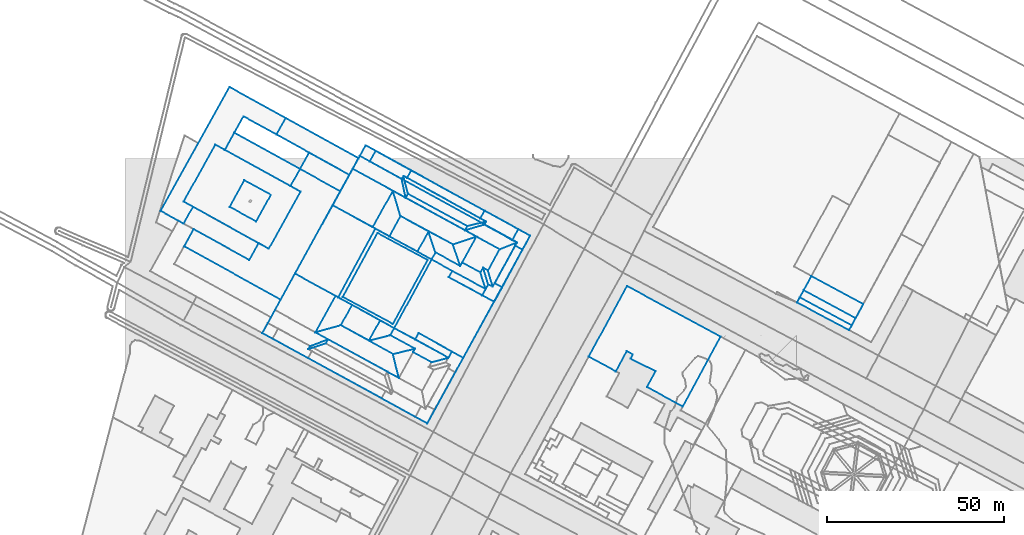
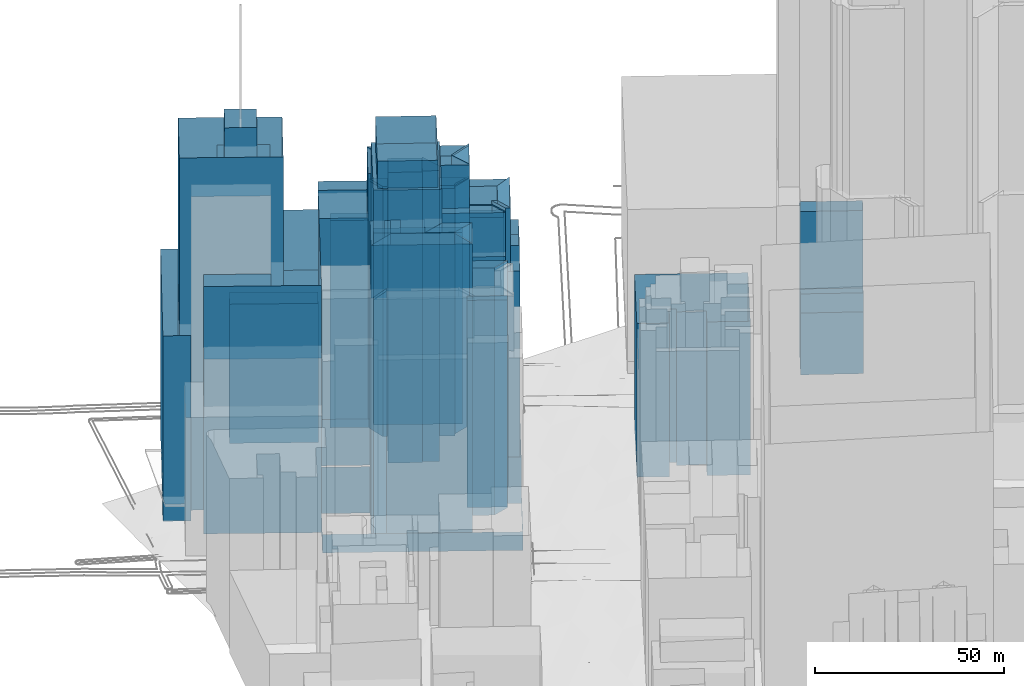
# Not in any storey, part 28 of 76: 48 walls.
"""IFC2X3 model written with IfcOpenShell, lengths in metres."""

from ifc_helpers import new_model, si_unit, frame, origin_with_axes, place, context, subcontext, project, faceted_brep, element, save


model = new_model("IFC2X3")

# Units and contexts
model_context = context("Model", 3, precision=1e-05, world=origin_with_axes())
body_context = subcontext(model_context, "Body", "Model", "MODEL_VIEW")
ifc_project = project(units=[si_unit("AREAUNIT", "SQUARE_METRE"), si_unit("LENGTHUNIT", "METRE")], contexts=[model_context])

# Walls
wall_1_placement = place(None, frame((75.1201709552, 329.5761447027, 23.8507407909), z_axis=(0.0, 0.0, 1.0), x_axis=(1.0, 0.0, 0.0)))
element("IfcWall", 1, at=wall_1_placement, Name="Mur 0", context=body_context, shape_type="Brep", body=[
    faceted_brep([(7.0088017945, -3.8488115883, 80.0), (0.0, 0.0, 80.0), (7.0088017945, -3.8488115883, 0.0), (0.0, 0.0, 0.0), (6.4714030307, -4.8209481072, 80.0), (6.4714030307, -4.8209481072, 0.0), (11.6537066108, -7.6695578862, 80.0), (11.6537066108, -7.6695578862, 0.0), (16.4083748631, -6.4041945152, 80.0), (16.4083748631, -6.4041945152, 0.0), (1.0997322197, 1.9778684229, 80.0), (1.0997322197, 1.9778684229, 0.0)], [[[0, 1, 2]], [[2, 1, 3]], [[4, 0, 5]], [[5, 0, 2]], [[6, 4, 7]], [[7, 4, 5]], [[8, 6, 9]], [[9, 6, 7]], [[1, 10, 3]], [[3, 10, 11]], [[10, 8, 11]], [[11, 8, 9]]]),
])
wall_2_placement = place(None, frame((53.8808145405, 330.3842681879, 23.5017044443), z_axis=(0.0, 0.0, 1.0), x_axis=(1.0, 0.0, 0.0)))
element("IfcWall", 2, at=wall_2_placement, Name="Mur 0", context=body_context, shape_type="Brep", body=[
    faceted_brep([(20.3973031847, -11.1652006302, 94.0), (0.0, 0.0, 94.0), (20.3973031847, -11.1652006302, 0.0), (0.0, 0.0, 0.0), (23.6510455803, -12.9481890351, 94.0), (23.6510455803, -12.9481890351, 0.0), (21.976830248, -6.1619484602, 94.0), (21.976830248, -6.1619484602, 0.0), (7.2275813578, 2.0268001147, 94.0), (7.2275813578, 2.0268001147, 0.0)], [[[0, 1, 2]], [[2, 1, 3]], [[4, 0, 5]], [[5, 0, 2]], [[6, 4, 7]], [[7, 4, 5]], [[1, 8, 3]], [[3, 8, 9]], [[8, 6, 9]], [[9, 6, 7]]]),
])
wall_3_placement = place(None, frame((192.0622109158, 342.2925513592, 22.833956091), z_axis=(0.0, 0.0, 1.0), x_axis=(1.0, 0.0, 0.0)))
element("IfcWall", 3, at=wall_3_placement, Name="Mur 0", context=body_context, shape_type="Brep", body=[
    faceted_brep([(14.6956420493, -7.9226606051, 50.0), (0.0, 0.0, 50.0), (14.6956420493, -7.9226606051, 0.0), (0.0, 0.0, 0.0), (16.8690690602, -3.9116740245, 50.0), (16.8690690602, -3.9116740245, 0.0), (2.1735614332, 3.9998814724, 50.0), (2.1735614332, 3.9998814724, 0.0)], [[[0, 1, 2]], [[2, 1, 3]], [[4, 0, 5]], [[5, 0, 2]], [[1, 6, 3]], [[3, 6, 7]], [[6, 4, 7]], [[7, 4, 5]]]),
])
wall_4_placement = place(None, frame((190.971338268, 340.2814610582, 22.7953305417), z_axis=(0.0, 0.0, 1.0), x_axis=(1.0, 0.0, 0.0)))
element("IfcWall", 4, at=wall_4_placement, Name="Mur 0", context=body_context, shape_type="Brep", body=[
    faceted_brep([(14.6956447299, -7.9226627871, 25.0), (0.0, 0.0, 25.0), (14.6956447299, -7.9226627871, 0.0), (0.0, 0.0, 0.0), (15.7865146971, -5.9115703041, 25.0), (15.7865146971, -5.9115703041, 0.0), (1.0908726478, 2.011090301, 25.0), (1.0908726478, 2.011090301, 0.0)], [[[0, 1, 2]], [[2, 1, 3]], [[4, 0, 5]], [[5, 0, 2]], [[1, 6, 3]], [[3, 6, 7]], [[6, 4, 7]], [[7, 4, 5]]]),
])
wall_5_placement = place(None, frame((190.1696765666, 338.8066419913, 22.7695470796), z_axis=(0.0, 0.0, 1.0), x_axis=(1.0, 0.0, 0.0)))
element("IfcWall", 5, at=wall_5_placement, Name="Mur 0", context=body_context, shape_type="Brep", body=[
    faceted_brep([(14.728245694, -7.822364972, 20.0), (0.0, 0.0, 20.0), (14.728245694, -7.822364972, 0.0), (0.0, 0.0, 0.0), (15.4973064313, -6.4478437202, 20.0), (15.4973064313, -6.4478437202, 0.0), (0.8016617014, 1.4748190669, 20.0), (0.8016617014, 1.4748190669, 0.0)], [[[0, 1, 2]], [[2, 1, 3]], [[4, 0, 5]], [[5, 0, 2]], [[1, 6, 3]], [[3, 6, 7]], [[6, 4, 7]], [[7, 4, 5]]]),
])
wall_6_placement = place(None, frame((131.2414210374, 323.4889407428, 19.5874307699), z_axis=(0.0, 0.0, 1.0), x_axis=(1.0, 0.0, 0.0)))
element("IfcWall", 6, at=wall_6_placement, Name="Mur 0", context=body_context, shape_type="Brep", body=[
    faceted_brep([(7.6623465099, -4.1520283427, 49.7000007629), (0.0, 0.0, 49.7000007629), (7.6623465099, -4.1520283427, 0.0), (0.0, 0.0, 0.0), (10.7530705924, 1.557139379, 49.7000007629), (10.7530705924, 1.557139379, 0.0), (12.4605179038, 0.6332892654, 49.7000007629), (12.4605179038, 0.6332892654, 0.0), (11.7910505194, -0.5957385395, 49.7000007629), (11.7910505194, -0.5957385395, 0.0), (18.9140593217, -4.0989897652, 49.7000007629), (18.9140593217, -4.0989897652, 0.0), (16.4763130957, -8.6126311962, 49.7000007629), (16.4763130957, -8.6126311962, 0.0), (26.6105246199, -14.0903890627, 49.7000007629), (26.6105246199, -14.0903890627, 0.0), (37.2957336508, 5.6514960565, 49.7000007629), (37.2957336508, 5.6514960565, 0.0), (10.8174622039, 19.9876323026, 49.7000007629), (10.8174622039, 19.9876323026, 0.0)], [[[0, 1, 2]], [[2, 1, 3]], [[4, 0, 5]], [[5, 0, 2]], [[6, 4, 7]], [[7, 4, 5]], [[8, 6, 9]], [[9, 6, 7]], [[10, 8, 11]], [[11, 8, 9]], [[12, 10, 13]], [[13, 10, 11]], [[14, 12, 15]], [[15, 12, 13]], [[16, 14, 17]], [[17, 14, 15]], [[1, 18, 3]], [[3, 18, 19]], [[18, 16, 19]], [[19, 16, 17]]]),
])
wall_7_placement = place(None, frame((96.2081885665, 359.2420118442, 24.1378546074), z_axis=(0.0, 0.0, 1.0), x_axis=(1.0, 0.0, 0.0)))
element("IfcWall", 7, at=wall_7_placement, Name="Mur 0", context=body_context, shape_type="Brep", body=[
    faceted_brep([(5.476758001, 1.5957227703, 80.0), (0.0, 0.0, 80.0), (5.476758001, 1.5957227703, 0.0), (0.0, 0.0, 0.0), (5.9728530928, 2.4896654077, 80.0), (5.9728530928, 2.4896654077, 0.0), (0.6444088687, 1.2065279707, 80.0), (0.6444088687, 1.2065279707, 0.0)], [[[0, 1, 2]], [[2, 1, 3]], [[4, 0, 5]], [[5, 0, 2]], [[1, 6, 3]], [[3, 6, 7]], [[6, 4, 7]], [[7, 4, 5]]]),
])
wall_8_placement = place(None, frame((100.5582678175, 362.6343155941, 24.249661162), z_axis=(0.0, 0.0, 1.0), x_axis=(1.0, 0.0, 0.0)))
element("IfcWall", 8, at=wall_8_placement, Name="Mur 0", context=body_context, shape_type="Brep", body=[
    faceted_brep([(1.6227738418, -0.9026383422, 67.0), (0.0, 0.0, 67.0), (1.6227738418, -0.9026383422, 0.0), (0.0, 0.0, 0.0), (1.12667875, -1.7965809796, 67.0), (1.12667875, -1.7965809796, 0.0), (9.0533233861, -6.1787158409, 67.0), (9.0533233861, -6.1787158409, 0.0), (10.7731599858, -3.0834129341, 67.0), (10.7731599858, -3.0834129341, 0.0), (1.1989392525, 2.1566610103, 67.0), (1.1989392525, 2.1566610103, 0.0)], [[[0, 1, 2]], [[2, 1, 3]], [[4, 0, 5]], [[5, 0, 2]], [[6, 4, 7]], [[7, 4, 5]], [[8, 6, 9]], [[9, 6, 7]], [[1, 10, 3]], [[3, 10, 11]], [[10, 8, 11]], [[11, 8, 9]]]),
])
wall_9_placement = place(None, frame((95.4278204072, 350.1179975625, 24.1757851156), z_axis=(0.0, 0.0, 1.0), x_axis=(1.0, 0.0, 0.0)))
element("IfcWall", 9, at=wall_9_placement, Name="Mur 0", context=body_context, shape_type="Brep", body=[
    faceted_brep([(5.1904741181, -2.8263004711, 80.0), (0.0, 0.0, 80.0), (5.1904741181, -2.8263004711, 0.0), (0.0, 0.0, 0.0), (5.942800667, -1.4630871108, 80.0), (5.942800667, -1.4630871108, 0.0), (7.3274473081, -2.2130597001, 80.0), (7.3274473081, -2.2130597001, 0.0), (10.6093444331, 3.7536652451, 80.0), (10.6093444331, 3.7536652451, 0.0), (4.0340988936, 7.3410355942, 80.0), (4.0340988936, 7.3410355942, 0.0)], [[[0, 1, 2]], [[2, 1, 3]], [[4, 0, 5]], [[5, 0, 2]], [[6, 4, 7]], [[7, 4, 5]], [[8, 6, 9]], [[9, 6, 7]], [[1, 10, 3]], [[3, 10, 11]], [[10, 8, 11]], [[11, 8, 9]]]),
])
wall_10_placement = place(None, frame((100.6182945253, 347.2916970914, 24.2468793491), z_axis=(0.0, 0.0, 1.0), x_axis=(1.0, 0.0, 0.0)))
element("IfcWall", 10, at=wall_10_placement, Name="Mur 0", context=body_context, shape_type="Brep", body=[
    faceted_brep([(1.4724916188, -4.6791504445, 80.0), (0.0, 0.0, 80.0), (1.4724916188, -4.6791504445, 0.0), (0.0, 0.0, 0.0), (2.1913155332, -3.3385306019, 80.0), (2.1913155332, -3.3385306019, 0.0), (0.7523265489, 1.3632133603, 80.0), (0.7523265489, 1.3632133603, 0.0)], [[[0, 1, 2]], [[2, 1, 3]], [[4, 0, 5]], [[5, 0, 2]], [[1, 6, 3]], [[3, 6, 7]], [[6, 4, 7]], [[7, 4, 5]]]),
])
wall_11_placement = place(None, frame((101.3706210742, 348.6549104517, 24.232721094), z_axis=(0.0, 0.0, 1.0), x_axis=(1.0, 0.0, 0.0)))
element("IfcWall", 11, at=wall_11_placement, Name="Mur 0", context=body_context, shape_type="Brep", body=[
    faceted_brep([(1.4389889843, -4.7017439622, 80.0), (0.0, 0.0, 80.0), (1.4389889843, -4.7017439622, 0.0), (0.0, 0.0, 0.0), (2.7214517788, -5.3751874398, 80.0), (2.7214517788, -5.3751874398, 0.0), (1.3846466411, -0.7499725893, 80.0), (1.3846466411, -0.7499725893, 0.0)], [[[0, 1, 2]], [[2, 1, 3]], [[4, 0, 5]], [[5, 0, 2]], [[1, 6, 3]], [[3, 6, 7]], [[6, 4, 7]], [[7, 4, 5]]]),
])
wall_12_placement = place(None, frame((104.621027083, 344.2517632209, 24.2058781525), z_axis=(0.0, 0.0, 1.0), x_axis=(1.0, 0.0, 0.0)))
element("IfcWall", 12, at=wall_12_placement, Name="Mur 0", context=body_context, shape_type="Brep", body=[
    faceted_brep([(2.0982656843, -1.14136393, 67.0), (0.0, 0.0, 67.0), (2.0982656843, -1.14136393, 0.0), (0.0, 0.0, 0.0), (7.8835058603, 9.5062875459, 67.0), (7.8835058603, 9.5062875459, 0.0), (5.7938113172, 10.6366471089, 67.0), (5.7938113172, 10.6366471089, 0.0)], [[[0, 1, 2]], [[2, 1, 3]], [[4, 0, 5]], [[5, 0, 2]], [[1, 6, 3]], [[3, 6, 7]], [[6, 4, 7]], [[7, 4, 5]]]),
])
wall_13_placement = place(None, frame((102.7552677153, 347.9049378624, 24.232721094), z_axis=(0.0, 0.0, 1.0), x_axis=(1.0, 0.0, 0.0)))
element("IfcWall", 13, at=wall_13_placement, Name="Mur 0", context=body_context, shape_type="Brep", body=[
    faceted_brep([(1.3368051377, -4.6252148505, 80.0), (0.0, 0.0, 80.0), (1.3368051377, -4.6252148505, 0.0), (0.0, 0.0, 0.0), (8.1803409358, 7.9332136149, 80.0), (8.1803409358, 7.9332136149, 0.0), (3.281897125, 5.9667249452, 80.0), (3.281897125, 5.9667249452, 0.0)], [[[0, 1, 2]], [[2, 1, 3]], [[4, 0, 5]], [[5, 0, 2]], [[1, 6, 3]], [[3, 6, 7]], [[6, 4, 7]], [[7, 4, 5]]]),
])
wall_14_placement = place(None, frame((109.6115912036, 356.4555997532, 24.2810848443), z_axis=(0.0, 0.0, 1.0), x_axis=(1.0, 0.0, 0.0)))
element("IfcWall", 14, at=wall_14_placement, Name="Mur 0", context=body_context, shape_type="Brep", body=[
    faceted_brep([(1.3240174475, -0.6174482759, 62.0), (0.0, 0.0, 62.0), (1.3240174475, -0.6174482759, 0.0), (0.0, 0.0, 0.0), (0.8032471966, -1.5671894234, 62.0), (0.8032471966, -1.5671894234, 0.0), (2.8929417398, -2.6975489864, 62.0), (2.8929417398, -2.6975489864, 0.0), (5.0500484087, 1.268810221, 62.0), (5.0500484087, 1.268810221, 0.0), (1.7198365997, 3.0953029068, 62.0), (1.7198365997, 3.0953029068, 0.0)], [[[0, 1, 2]], [[2, 1, 3]], [[4, 0, 5]], [[5, 0, 2]], [[6, 4, 7]], [[7, 4, 5]], [[8, 6, 9]], [[9, 6, 7]], [[1, 10, 3]], [[3, 10, 11]], [[10, 8, 11]], [[11, 8, 9]]]),
])
wall_15_placement = place(None, frame((101.1237847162, 340.8360563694, 24.2058781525), z_axis=(0.0, 0.0, 1.0), x_axis=(1.0, 0.0, 0.0)))
element("IfcWall", 15, at=wall_15_placement, Name="Mur 0", context=body_context, shape_type="Brep", body=[
    faceted_brep([(3.3638492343, -1.8150044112, 62.0), (0.0, 0.0, 62.0), (3.3638492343, -1.8150044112, 0.0), (0.0, 0.0, 0.0), (5.5955080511, 2.2743429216, 62.0), (5.5955080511, 2.2743429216, 0.0), (3.4972423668, 3.4157068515, 62.0), (3.4972423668, 3.4157068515, 0.0), (2.9682881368, 2.4436666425, 62.0), (2.9682881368, 2.4436666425, 0.0), (1.6858253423, 3.1171101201, 62.0), (1.6858253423, 3.1171101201, 0.0)], [[[0, 1, 2]], [[2, 1, 3]], [[4, 0, 5]], [[5, 0, 2]], [[6, 4, 7]], [[7, 4, 5]], [[8, 6, 9]], [[9, 6, 7]], [[1, 10, 3]], [[3, 10, 11]], [[10, 8, 11]], [[11, 8, 9]]]),
])
wall_16_placement = place(None, frame((76.2199031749, 331.5540131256, 23.8161532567), z_axis=(0.0, 0.0, 1.0), x_axis=(1.0, 0.0, 0.0)))
element("IfcWall", 16, at=wall_16_placement, Name="Mur 0", context=body_context, shape_type="Brep", body=[
    faceted_brep([(5.886443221, -3.1512997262, 15.0), (0.0, 0.0, 15.0), (5.886443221, -3.1512997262, 0.0), (0.0, 0.0, 0.0), (6.870460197, -1.3857167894, 15.0), (6.870460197, -1.3857167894, 0.0), (19.4873212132, -8.4001453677, 15.0), (19.4873212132, -8.4001453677, 0.0), (28.2677307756, 7.4670388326, 15.0), (28.2677307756, 7.4670388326, 0.0), (15.4237759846, 14.4122011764, 15.0), (15.4237759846, 14.4122011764, 0.0), (16.3907789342, 16.1886902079, 15.0), (16.3907789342, 16.1886902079, 0.0), (10.5539558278, 19.4293756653, 15.0), (10.5539558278, 19.4293756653, 0.0)], [[[0, 1, 2]], [[2, 1, 3]], [[4, 0, 5]], [[5, 0, 2]], [[6, 4, 7]], [[7, 4, 5]], [[8, 6, 9]], [[9, 6, 7]], [[10, 8, 11]], [[11, 8, 9]], [[12, 10, 13]], [[13, 10, 11]], [[1, 14, 3]], [[3, 14, 15]], [[14, 12, 15]], [[15, 12, 13]]]),
])
wall_17_placement = place(None, frame((91.6436791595, 345.966214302, 24.0394007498), z_axis=(0.0, 0.0, 1.0), x_axis=(1.0, 0.0, 0.0)))
element("IfcWall", 17, at=wall_17_placement, Name="Mur 0", context=body_context, shape_type="Brep", body=[
    faceted_brep([(9.4801055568, -5.1301579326, 67.0), (0.0, 0.0, 67.0), (9.4801055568, -5.1301579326, 0.0), (0.0, 0.0, 0.0), (10.4471069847, -3.353667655, 67.0), (10.4471069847, -3.353667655, 0.0), (0.9670029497, 1.7764890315, 67.0), (0.9670029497, 1.7764890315, 0.0)], [[[0, 1, 2]], [[2, 1, 3]], [[4, 0, 5]], [[5, 0, 2]], [[1, 6, 3]], [[3, 6, 7]], [[6, 4, 7]], [[7, 4, 5]]]),
])
wall_18_placement = place(None, frame((86.7738590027, 350.9833887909, 23.8161532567), z_axis=(0.0, 0.0, 1.0), x_axis=(1.0, 0.0, 0.0)))
element("IfcWall", 18, at=wall_18_placement, Name="Mur 0", context=body_context, shape_type="Brep", body=[
    faceted_brep([(5.8368231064, -3.2406854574, 80.0), (0.0, 0.0, 80.0), (5.8368231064, -3.2406854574, 0.0), (0.0, 0.0, 0.0), (15.3169271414, -8.3708421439, 80.0), (15.3169271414, -8.3708421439, 0.0), (13.8444355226, -3.6916916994, 80.0), (13.8444355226, -3.6916916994, 0.0), (8.6539614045, -0.8653912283, 80.0), (8.6539614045, -0.8653912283, 0.0), (8.1165662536, -1.8375288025, 80.0), (8.1165662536, -1.8375288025, 0.0), (1.1079080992, 2.0001698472, 80.0), (1.1079080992, 2.0001698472, 0.0)], [[[0, 1, 2]], [[2, 1, 3]], [[4, 0, 5]], [[5, 0, 2]], [[6, 4, 7]], [[7, 4, 5]], [[8, 6, 9]], [[9, 6, 7]], [[10, 8, 11]], [[11, 8, 9]], [[1, 12, 3]], [[3, 12, 13]], [[12, 10, 13]], [[13, 10, 11]]]),
])
wall_19_placement = place(None, frame((92.8106246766, 355.2390469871, 24.0480155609), z_axis=(0.0, 0.0, 1.0), x_axis=(1.0, 0.0, 0.0)))
element("IfcWall", 19, at=wall_19_placement, Name="Mur 0", context=body_context, shape_type="Brep", body=[
    faceted_brep([(2.0798005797, -6.0931869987, 94.0), (0.0, 0.0, 94.0), (2.0798005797, -6.0931869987, 0.0), (0.0, 0.0, 0.0), (6.6512946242, 2.2199861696, 94.0), (6.6512946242, 2.2199861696, 0.0)], [[[0, 1, 2]], [[2, 1, 3]], [[1, 4, 3]], [[3, 4, 5]], [[4, 0, 5]], [[5, 0, 2]]]),
])
wall_20_placement = place(None, frame((79.4722561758, 368.4179540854, 23.5718630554), z_axis=(0.0, 0.0, 1.0), x_axis=(1.0, 0.0, 0.0)))
element("IfcWall", 20, at=wall_20_placement, Name="Mur 0", context=body_context, shape_type="Brep", body=[
    faceted_brep([(16.7359323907, -9.1759422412, 80.0), (0.0, 0.0, 80.0), (16.7359323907, -9.1759422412, 0.0), (0.0, 0.0, 0.0), (17.3803412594, -7.9694142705, 80.0), (17.3803412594, -7.9694142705, 0.0), (0.6023388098, 1.1949356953, 80.0), (0.6023388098, 1.1949356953, 0.0)], [[[0, 1, 2]], [[2, 1, 3]], [[4, 0, 5]], [[5, 0, 2]], [[1, 6, 3]], [[3, 6, 7]], [[6, 4, 7]], [[7, 4, 5]]]),
])
wall_21_placement = place(None, frame((75.8192697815, 370.4183503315, 23.455162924), z_axis=(0.0, 0.0, 1.0), x_axis=(1.0, 0.0, 0.0)))
element("IfcWall", 21, at=wall_21_placement, Name="Mur 0", context=body_context, shape_type="Brep", body=[
    faceted_brep([(2.1596786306, -7.1580802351, 94.0), (0.0, 0.0, 94.0), (2.1596786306, -7.1580802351, 0.0), (0.0, 0.0, 0.0), (16.9913548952, -15.1793033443, 94.0), (16.9913548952, -15.1793033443, 0.0), (23.6426495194, -12.9593171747, 94.0), (23.6426495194, -12.9593171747, 0.0)], [[[0, 1, 2]], [[2, 1, 3]], [[4, 0, 5]], [[5, 0, 2]], [[1, 6, 3]], [[3, 6, 7]], [[6, 4, 7]], [[7, 4, 5]]]),
])
wall_22_placement = place(None, frame((85.9220693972, 358.9116084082, 23.7825598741), z_axis=(0.0, 0.0, 1.0), x_axis=(1.0, 0.0, 0.0)))
element("IfcWall", 22, at=wall_22_placement, Name="Mur 0", context=body_context, shape_type="Brep", body=[
    faceted_brep([(1.9596977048, -5.9280497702, 94.0), (0.0, 0.0, 94.0), (1.9596977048, -5.9280497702, 0.0), (0.0, 0.0, 0.0), (8.9683558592, -9.7657484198, 94.0), (8.9683558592, -9.7657484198, 0.0), (6.8885552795, -3.6725614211, 94.0), (6.8885552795, -3.6725614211, 0.0)], [[[0, 1, 2]], [[2, 1, 3]], [[4, 0, 5]], [[5, 0, 2]], [[1, 6, 3]], [[3, 6, 7]], [[6, 4, 7]], [[7, 4, 5]]]),
])
wall_23_placement = place(None, frame((82.7722366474, 353.201778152, 23.6513045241), z_axis=(0.0, 0.0, 1.0), x_axis=(1.0, 0.0, 0.0)))
element("IfcWall", 23, at=wall_23_placement, Name="Mur 0", context=body_context, shape_type="Brep", body=[
    faceted_brep([(4.0016223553, -2.2183893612, 94.0), (0.0, 0.0, 94.0), (4.0016223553, -2.2183893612, 0.0), (0.0, 0.0, 0.0), (5.1095304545, -0.218219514, 94.0), (5.1095304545, -0.218219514, 0.0), (3.1498327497, 5.7098302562, 94.0), (3.1498327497, 5.7098302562, 0.0)], [[[0, 1, 2]], [[2, 1, 3]], [[4, 0, 5]], [[5, 0, 2]], [[1, 6, 3]], [[3, 6, 7]], [[6, 4, 7]], [[7, 4, 5]]]),
])
wall_24_placement = place(None, frame((74.8292405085, 357.53934249, 23.2877785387), z_axis=(0.0, 0.0, 1.0), x_axis=(1.0, 0.0, 0.0)))
element("IfcWall", 24, at=wall_24_placement, Name="Mur 0", context=body_context, shape_type="Brep", body=[
    faceted_brep([(7.9429961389, -4.337564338, 94.0), (0.0, 0.0, 94.0), (7.9429961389, -4.337564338, 0.0), (0.0, 0.0, 0.0), (11.0928288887, 1.3722659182, 94.0), (11.0928288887, 1.3722659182, 0.0), (3.1497079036, 5.7209276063, 94.0), (3.1497079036, 5.7209276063, 0.0)], [[[0, 1, 2]], [[2, 1, 3]], [[4, 0, 5]], [[5, 0, 2]], [[1, 6, 3]], [[3, 6, 7]], [[6, 4, 7]], [[7, 4, 5]]]),
])
wall_25_placement = place(None, frame((38.8830888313, 330.1657711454, 23.4054188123), z_axis=(0.0, 0.0, 1.0), x_axis=(1.0, 0.0, 0.0)))
element("IfcWall", 25, at=wall_25_placement, Name="Mur 0", context=body_context, shape_type="Brep", body=[
    faceted_brep([(46.6647208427, -25.5263239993, 6.0), (0.0, 0.0, 6.0), (46.6647208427, -25.5263239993, 0.0), (0.0, 0.0, 0.0), (75.778550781, 27.5586388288, 6.0), (75.778550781, 27.5586388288, 0.0), (29.2065067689, 53.1191580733, 6.0), (29.2065067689, 53.1191580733, 0.0)], [[[0, 1, 2]], [[2, 1, 3]], [[4, 0, 5]], [[5, 0, 2]], [[1, 6, 3]], [[3, 6, 7]], [[6, 4, 7]], [[7, 4, 5]]]),
])
wall_26_placement = place(None, frame((61.6318682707, 340.3996652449, 127.1275293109), z_axis=(0.0, 0.0, 1.0), x_axis=(1.0, 0.0, 0.0)))
element("IfcWall", 26, at=wall_26_placement, Name="Mur 0", context=body_context, shape_type="Brep", body=[
    faceted_brep([(14.1943048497, -7.651180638, 8.8000030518), (0.0, 0.0, 8.8000030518), (14.1943048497, -7.651180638, 0.0), (0.0, 0.0, 0.0), (24.0125535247, 10.4373802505, 8.8000030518), (24.0125535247, 10.4373802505, 0.0), (9.81827195, 18.0885419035, 8.8000030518), (9.81827195, 18.0885419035, 0.0)], [[[0, 1, 2]], [[2, 1, 3]], [[4, 0, 5]], [[5, 0, 2]], [[1, 6, 3]], [[3, 6, 7]], [[6, 4, 7]], [[7, 4, 5]]]),
])
wall_27_placement = place(None, frame((60.3249272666, 340.2734696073, 23.0925662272), z_axis=(0.0, 0.0, 1.0), x_axis=(1.0, 0.0, 0.0)))
element("IfcWall", 27, at=wall_27_placement, Name="Mur 0", context=body_context, shape_type="Brep", body=[
    faceted_brep([(15.8949759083, -8.7194564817, 104.0), (0.0, 0.0, 104.0), (15.8949759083, -8.7194564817, 0.0), (0.0, 0.0, 0.0), (26.4489317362, 10.7099191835, 104.0), (26.4489317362, 10.7099191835, 0.0), (10.5539835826, 19.4293528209, 104.0), (10.5539835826, 19.4293528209, 0.0)], [[[0, 1, 2]], [[2, 1, 3]], [[4, 0, 5]], [[5, 0, 2]], [[1, 6, 3]], [[3, 6, 7]], [[6, 4, 7]], [[7, 4, 5]]]),
])
wall_28_placement = place(None, frame((70.1312780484, 360.1160272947, 23.0634036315), z_axis=(0.0, 0.0, 1.0), x_axis=(1.0, 0.0, 0.0)))
element("IfcWall", 28, at=wall_28_placement, Name="Mur 0", context=body_context, shape_type="Brep", body=[
    faceted_brep([(4.6979624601, -2.5766848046, 94.0), (0.0, 0.0, 94.0), (4.6979624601, -2.5766848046, 0.0), (0.0, 0.0, 0.0), (7.8476703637, 3.1442428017, 94.0), (7.8476703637, 3.1442428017, 0.0), (5.6879917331, 10.3023230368, 94.0), (5.6879917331, 10.3023230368, 0.0)], [[[0, 1, 2]], [[2, 1, 3]], [[4, 0, 5]], [[5, 0, 2]], [[1, 6, 3]], [[3, 6, 7]], [[6, 4, 7]], [[7, 4, 5]]]),
])
wall_29_placement = place(None, frame((48.1254357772, 346.9708364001, 22.6869888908), z_axis=(0.0, 0.0, 1.0), x_axis=(1.0, 0.0, 0.0)))
element("IfcWall", 29, at=wall_29_placement, Name="Mur 0", context=body_context, shape_type="Brep", body=[
    faceted_brep([(12.1994914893, -6.6973667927, 15.0), (0.0, 0.0, 15.0), (12.1994914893, -6.6973667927, 0.0), (0.0, 0.0, 0.0), (22.753475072, 12.7319860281, 15.0), (22.753475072, 12.7319860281, 0.0), (10.6309973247, 19.3414111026, 15.0), (10.6309973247, 19.3414111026, 0.0)], [[[0, 1, 2]], [[2, 1, 3]], [[4, 0, 5]], [[5, 0, 2]], [[1, 6, 3]], [[3, 6, 7]], [[6, 4, 7]], [[7, 4, 5]]]),
])
wall_30_placement = place(None, frame((53.8808145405, 330.3842681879, 23.2090927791), z_axis=(0.0, 0.0, 1.0), x_axis=(1.0, 0.0, 0.0)))
element("IfcWall", 30, at=wall_30_placement, Name="Mur 0", context=body_context, shape_type="Brep", body=[
    faceted_brep([(7.2275813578, 2.0268001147, 94.0), (0.0, 0.0, 94.0), (7.2275813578, 2.0268001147, 0.0), (0.0, 0.0, 0.0), (10.3860090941, 7.7256178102, 94.0), (10.3860090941, 7.7256178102, 0.0), (5.6964786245, 10.3024073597, 94.0), (5.6964786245, 10.3024073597, 0.0)], [[[0, 1, 2]], [[2, 1, 3]], [[4, 0, 5]], [[5, 0, 2]], [[1, 6, 3]], [[3, 6, 7]], [[6, 4, 7]], [[7, 4, 5]]]),
])
wall_31_placement = place(None, frame((69.0516677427, 328.0512876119, 23.6953649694), z_axis=(0.0, 0.0, 1.0), x_axis=(1.0, 0.0, 0.0)))
element("IfcWall", 31, at=wall_31_placement, Name="Mur 0", context=body_context, shape_type="Brep", body=[
    faceted_brep([(6.0685032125, 1.5248570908, 94.0), (0.0, 0.0, 94.0), (6.0685032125, 1.5248570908, 0.0), (0.0, 0.0, 0.0), (7.1682354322, 3.5027255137, 94.0), (7.1682354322, 3.5027255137, 0.0), (3.1498546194, 5.7098238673, 94.0), (3.1498546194, 5.7098238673, 0.0)], [[[0, 1, 2]], [[2, 1, 3]], [[4, 0, 5]], [[5, 0, 2]], [[1, 6, 3]], [[3, 6, 7]], [[6, 4, 7]], [[7, 4, 5]]]),
])
wall_32_placement = place(None, frame((61.1083958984, 332.4110683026, 23.390927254), z_axis=(0.0, 0.0, 1.0), x_axis=(1.0, 0.0, 0.0)))
element("IfcWall", 32, at=wall_32_placement, Name="Mur 0", context=body_context, shape_type="Brep", body=[
    faceted_brep([(7.9432718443, -4.3597806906, 94.0), (0.0, 0.0, 94.0), (7.9432718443, -4.3597806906, 0.0), (0.0, 0.0, 0.0), (11.0931264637, 1.3500431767, 94.0), (11.0931264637, 1.3500431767, 0.0), (3.1584277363, 5.6988176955, 94.0), (3.1584277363, 5.6988176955, 0.0)], [[[0, 1, 2]], [[2, 1, 3]], [[4, 0, 5]], [[5, 0, 2]], [[1, 6, 3]], [[3, 6, 7]], [[6, 4, 7]], [[7, 4, 5]]]),
])
wall_33_placement = place(None, frame((16.7688335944, 354.7226631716, 22.4076126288), z_axis=(0.0, 0.0, 1.0), x_axis=(1.0, 0.0, 0.0)))
element("IfcWall", 33, at=wall_33_placement, Name="Mur 0", context=body_context, shape_type="Brep", body=[
    faceted_brep([(27.3056955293, -15.1041300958, 80.0), (0.0, 0.0, 80.0), (27.3056955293, -15.1041300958, 0.0), (0.0, 0.0, 0.0), (44.1700510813, 15.5562215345, 80.0), (44.1700510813, 15.5562215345, 0.0), (32.7770605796, 21.8632672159, 80.0), (32.7770605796, 21.8632672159, 0.0), (30.0813661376, 17.0247000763, 80.0), (30.0813661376, 17.0247000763, 0.0), (32.9359432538, 15.4480094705, 80.0), (32.9359432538, 15.4480094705, 0.0), (23.9392342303, -0.6991752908, 80.0), (23.9392342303, -0.6991752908, 0.0), (21.0760840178, 0.8885216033, 80.0), (21.0760840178, 0.8885216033, 0.0), (18.4215440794, -3.8607450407, 80.0), (18.4215440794, -3.8607450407, 0.0), (2.6874090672, 4.8273569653, 80.0), (2.6874090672, 4.8273569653, 0.0)], [[[0, 1, 2]], [[2, 1, 3]], [[4, 0, 5]], [[5, 0, 2]], [[6, 4, 7]], [[7, 4, 5]], [[8, 6, 9]], [[9, 6, 7]], [[10, 8, 11]], [[11, 8, 9]], [[12, 10, 13]], [[13, 10, 11]], [[14, 12, 15]], [[15, 12, 13]], [[16, 14, 17]], [[17, 14, 15]], [[1, 18, 3]], [[3, 18, 19]], [[18, 16, 19]], [[19, 16, 17]]]),
])
wall_34_placement = place(None, frame((28.2698359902, 382.0233366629, 22.5121474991), z_axis=(0.0, 0.0, 1.0), x_axis=(1.0, 0.0, 0.0)))
element("IfcWall", 34, at=wall_34_placement, Name="Mur 0", context=body_context, shape_type="Brep", body=[
    faceted_brep([(18.5803637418, -10.275973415, 105.0), (0.0, 0.0, 105.0), (18.5803637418, -10.275973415, 0.0), (0.0, 0.0, 0.0), (21.2760581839, -5.4374062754, 105.0), (21.2760581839, -5.4374062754, 0.0), (2.6958312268, 4.8274595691, 105.0), (2.6958312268, 4.8274595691, 0.0)], [[[0, 1, 2]], [[2, 1, 3]], [[4, 0, 5]], [[5, 0, 2]], [[1, 6, 3]], [[3, 6, 7]], [[6, 4, 7]], [[7, 4, 5]]]),
])
wall_35_placement = place(None, frame((10.068288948, 364.747963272, 22.7304030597), z_axis=(0.0, 0.0, 1.0), x_axis=(1.0, 0.0, 0.0)))
element("IfcWall", 35, at=wall_35_placement, Name="Mur 0", context=body_context, shape_type="Brep", body=[
    faceted_brep([(6.5418195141, -3.6211429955, 60.0), (0.0, 0.0, 60.0), (6.5418195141, -3.6211429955, 0.0), (0.0, 0.0, 0.0), (9.196238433, 1.1392176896, 60.0), (9.196238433, 1.1392176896, 0.0), (6.5370782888, 2.6071649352, 60.0), (6.5370782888, 2.6071649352, 0.0), (15.5253815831, 18.7542222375, 60.0), (15.5253815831, 18.7542222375, 0.0), (18.2015470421, 17.2753733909, 60.0), (18.2015470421, 17.2753733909, 0.0), (23.4855455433, 26.7514080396, 60.0), (23.4855455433, 26.7514080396, 0.0), (32.8138870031, 21.5972119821, 60.0), (32.8138870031, 21.5972119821, 0.0), (35.4104872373, 26.245889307, 60.0), (35.4104872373, 26.245889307, 0.0), (19.514901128, 35.0320145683, 60.0), (19.514901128, 35.0320145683, 0.0)], [[[0, 1, 2]], [[2, 1, 3]], [[4, 0, 5]], [[5, 0, 2]], [[6, 4, 7]], [[7, 4, 5]], [[8, 6, 9]], [[9, 6, 7]], [[10, 8, 11]], [[11, 8, 9]], [[12, 10, 13]], [[13, 10, 11]], [[14, 12, 15]], [[15, 12, 13]], [[16, 14, 17]], [[17, 14, 15]], [[1, 18, 3]], [[3, 18, 19]], [[18, 16, 19]], [[19, 16, 17]]]),
])
wall_36_placement = place(None, frame((16.6053672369, 367.3551282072, 22.4076126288), z_axis=(0.0, 0.0, 1.0), x_axis=(1.0, 0.0, 0.0)))
element("IfcWall", 36, at=wall_36_placement, Name="Mur 0", context=body_context, shape_type="Brep", body=[
    faceted_brep([(24.1027005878, -13.3316403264, 114.0), (0.0, 0.0, 114.0), (24.1027005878, -13.3316403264, 0.0), (0.0, 0.0, 0.0), (33.0994096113, 2.8155444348, 114.0), (33.0994096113, 2.8155444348, 0.0), (8.9883032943, 16.1470573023, 114.0), (8.9883032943, 16.1470573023, 0.0)], [[[0, 1, 2]], [[2, 1, 3]], [[4, 0, 5]], [[5, 0, 2]], [[1, 6, 3]], [[3, 6, 7]], [[6, 4, 7]], [[7, 4, 5]]]),
])
wall_37_placement = place(None, frame((29.6218946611, 365.8963536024, 22.4832836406), z_axis=(0.0, 0.0, 1.0), x_axis=(1.0, 0.0, 0.0)))
element("IfcWall", 37, at=wall_37_placement, Name="Mur 0", context=body_context, shape_type="Brep", body=[
    faceted_brep([(7.5017517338, -4.1428926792, 120.0), (0.0, 0.0, 120.0), (7.5017517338, -4.1428926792, 0.0), (0.0, 0.0, 0.0), (11.6857620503, 3.3774859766, 120.0), (11.6857620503, 3.3774859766, 0.0), (4.192455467, 7.5204723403, 120.0), (4.192455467, 7.5204723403, 0.0)], [[[0, 1, 2]], [[2, 1, 3]], [[4, 0, 5]], [[5, 0, 2]], [[1, 6, 3]], [[3, 6, 7]], [[6, 4, 7]], [[7, 4, 5]]]),
])
wall_38_placement = place(None, frame((42.8821759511, 386.3451752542, 23.3606694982), z_axis=(0.0, 0.0, 1.0), x_axis=(1.0, 0.0, 0.0)))
element("IfcWall", 38, at=wall_38_placement, Name="Mur 0", context=body_context, shape_type="Brep", body=[
    faceted_brep([(20.6194143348, -11.4068981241, 45.0), (0.0, 0.0, 45.0), (20.6194143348, -11.4068981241, 0.0), (0.0, 0.0, 0.0), (23.1902990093, -6.725205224, 45.0), (23.1902990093, -6.725205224, 0.0), (2.5966002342, 4.6486773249, 45.0), (2.5966002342, 4.6486773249, 0.0)], [[[0, 1, 2]], [[2, 1, 3]], [[4, 0, 5]], [[5, 0, 2]], [[1, 6, 3]], [[3, 6, 7]], [[6, 4, 7]], [[7, 4, 5]]]),
])
wall_39_placement = place(None, frame((49.545894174, 376.5859303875, 22.872031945), z_axis=(0.0, 0.0, 1.0), x_axis=(1.0, 0.0, 0.0)))
element("IfcWall", 39, at=wall_39_placement, Name="Mur 0", context=body_context, shape_type="Brep", body=[
    faceted_brep([(11.3929905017, -6.3070456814, 60.0), (0.0, 0.0, 60.0), (11.3929905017, -6.3070456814, 0.0), (0.0, 0.0, 0.0), (13.9556961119, -1.6476532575, 60.0), (13.9556961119, -1.6476532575, 0.0), (2.5882884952, 4.637480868, 60.0), (2.5882884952, 4.637480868, 0.0)], [[[0, 1, 2]], [[2, 1, 3]], [[4, 0, 5]], [[5, 0, 2]], [[1, 6, 3]], [[3, 6, 7]], [[6, 4, 7]], [[7, 4, 5]]]),
])
wall_40_placement = place(None, frame((58.756433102, 366.3122475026, 22.6869888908), z_axis=(0.0, 0.0, 1.0), x_axis=(1.0, 0.0, 0.0)))
element("IfcWall", 40, at=wall_40_placement, Name="Mur 0", context=body_context, shape_type="Brep", body=[
    faceted_brep([(11.3748449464, -6.196220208, 80.0), (0.0, 0.0, 80.0), (11.3748449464, -6.196220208, 0.0), (0.0, 0.0, 0.0), (17.0628366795, 4.1061028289, 80.0), (17.0628366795, 4.1061028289, 0.0), (5.6791754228, 10.3355185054, 80.0), (5.6791754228, 10.3355185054, 0.0)], [[[0, 1, 2]], [[2, 1, 3]], [[4, 0, 5]], [[5, 0, 2]], [[1, 6, 3]], [[3, 6, 7]], [[6, 4, 7]], [[7, 4, 5]]]),
])
wall_41_placement = place(None, frame((69.2904287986, 378.7358456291, 23.7854365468), z_axis=(0.0, 0.0, 1.0), x_axis=(1.0, 0.0, 0.0)))
element("IfcWall", 41, at=wall_41_placement, Name="Mur 0", context=body_context, shape_type="Brep", body=[
    faceted_brep([(9.0394844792, -4.9909724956, 67.0), (0.0, 0.0, 67.0), (9.0394844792, -4.9909724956, 0.0), (0.0, 0.0, 0.0), (9.5440215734, -4.0969334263, 67.0), (9.5440215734, -4.0969334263, 0.0), (10.5380936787, -4.6516049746, 67.0), (10.5380936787, -4.6516049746, 0.0), (11.6874272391, -2.5843414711, 67.0), (11.6874272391, -2.5843414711, 0.0), (1.653744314, 2.9724011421, 67.0), (1.653744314, 2.9724011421, 0.0)], [[[0, 1, 2]], [[2, 1, 3]], [[4, 0, 5]], [[5, 0, 2]], [[6, 4, 7]], [[7, 4, 5]], [[8, 6, 9]], [[9, 6, 7]], [[1, 10, 3]], [[3, 10, 11]], [[10, 8, 11]], [[11, 8, 9]]]),
])
wall_42_placement = place(None, frame((78.3299132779, 373.7448731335, 23.5718630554), z_axis=(0.0, 0.0, 1.0), x_axis=(1.0, 0.0, 0.0)))
element("IfcWall", 42, at=wall_42_placement, Name="Mur 0", context=body_context, shape_type="Brep", body=[
    faceted_brep([(1.1423428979, -5.3269190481, 80.0), (0.0, 0.0, 80.0), (1.1423428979, -5.3269190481, 0.0), (0.0, 0.0, 0.0), (1.7446817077, -4.1319833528, 80.0), (1.7446817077, -4.1319833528, 0.0), (0.5045370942, 0.8940390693, 80.0), (0.5045370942, 0.8940390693, 0.0)], [[[0, 1, 2]], [[2, 1, 3]], [[4, 0, 5]], [[5, 0, 2]], [[1, 6, 3]], [[3, 6, 7]], [[6, 4, 7]], [[7, 4, 5]]]),
])
wall_43_placement = place(None, frame((64.4356085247, 376.647766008, 23.5361312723), z_axis=(0.0, 0.0, 1.0), x_axis=(1.0, 0.0, 0.0)))
element("IfcWall", 43, at=wall_43_placement, Name="Mur 0", context=body_context, shape_type="Brep", body=[
    faceted_brep([(41.6015563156, -22.7761032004, 80.0), (0.0, 0.0, 80.0), (41.6015563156, -22.7761032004, 0.0), (0.0, 0.0, 0.0), (46.5000001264, -20.8096145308, 80.0), (46.5000001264, -20.8096145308, 0.0), (2.0171223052, 3.6649587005, 80.0), (2.0171223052, 3.6649587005, 0.0)], [[[0, 1, 2]], [[2, 1, 3]], [[4, 0, 5]], [[5, 0, 2]], [[1, 6, 3]], [[3, 6, 7]], [[6, 4, 7]], [[7, 4, 5]]]),
])
wall_44_placement = place(None, frame((78.834450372, 374.6389122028, 23.6117030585), z_axis=(0.0, 0.0, 1.0), x_axis=(1.0, 0.0, 0.0)))
element("IfcWall", 44, at=wall_44_placement, Name="Mur 0", context=body_context, shape_type="Brep", body=[
    faceted_brep([(1.2401446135, -5.0260224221, 80.0), (0.0, 0.0, 80.0), (1.2401446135, -5.0260224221, 0.0), (0.0, 0.0, 0.0), (18.0181470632, -14.1903723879, 80.0), (18.0181470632, -14.1903723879, 0.0), (23.3465912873, -12.9072349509, 80.0), (23.3465912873, -12.9072349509, 0.0)], [[[0, 1, 2]], [[2, 1, 3]], [[4, 0, 5]], [[5, 0, 2]], [[1, 6, 3]], [[3, 6, 7]], [[6, 4, 7]], [[7, 4, 5]]]),
])
wall_45_placement = place(None, frame((79.8285224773, 374.0842406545, 23.8438960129), z_axis=(0.0, 0.0, 1.0), x_axis=(1.0, 0.0, 0.0)))
element("IfcWall", 45, at=wall_45_placement, Name="Mur 0", context=body_context, shape_type="Brep", body=[
    faceted_brep([(20.7297453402, -11.4499250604, 62.0), (0.0, 0.0, 62.0), (20.7297453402, -11.4499250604, 0.0), (0.0, 0.0, 0.0), (21.9286845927, -9.29326405, 62.0), (21.9286845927, -9.29326405, 0.0), (1.1493335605, 2.0672635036, 62.0), (1.1493335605, 2.0672635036, 0.0)], [[[0, 1, 2]], [[2, 1, 3]], [[4, 0, 5]], [[5, 0, 2]], [[1, 6, 3]], [[3, 6, 7]], [[6, 4, 7]], [[7, 4, 5]]]),
])
wall_46_placement = place(None, frame((82.1063463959, 328.4027133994, 24.0355533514), z_axis=(0.0, 0.0, 1.0), x_axis=(1.0, 0.0, 0.0)))
element("IfcWall", 46, at=wall_46_placement, Name="Mur 0", context=body_context, shape_type="Brep", body=[
    faceted_brep([(9.4221994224, -5.2307632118, 67.0), (0.0, 0.0, 67.0), (9.4221994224, -5.2307632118, 0.0), (0.0, 0.0, 0.0), (10.4062149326, -3.465179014, 67.0), (10.4062149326, -3.465179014, 0.0), (0.984016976, 1.7655829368, 67.0), (0.984016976, 1.7655829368, 0.0)], [[[0, 1, 2]], [[2, 1, 3]], [[4, 0, 5]], [[5, 0, 2]], [[1, 6, 3]], [[3, 6, 7]], [[6, 4, 7]], [[7, 4, 5]]]),
])
wall_47_placement = place(None, frame((69.0516677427, 328.0512876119, 23.794695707), z_axis=(0.0, 0.0, 1.0), x_axis=(1.0, 0.0, 0.0)))
element("IfcWall", 47, at=wall_47_placement, Name="Mur 0", context=body_context, shape_type="Brep", body=[
    faceted_brep([(6.8059770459, -3.8289678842, 94.0), (0.0, 0.0, 94.0), (6.8059770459, -3.8289678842, 0.0), (0.0, 0.0, 0.0), (13.077305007, -2.3239544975, 94.0), (13.077305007, -2.3239544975, 0.0), (6.0685032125, 1.5248570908, 94.0), (6.0685032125, 1.5248570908, 0.0)], [[[0, 1, 2]], [[2, 1, 3]], [[4, 0, 5]], [[5, 0, 2]], [[1, 6, 3]], [[3, 6, 7]], [[6, 4, 7]], [[7, 4, 5]]]),
])
wall_48_placement = place(None, frame((51.9190164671, 325.5875262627, 23.5481954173), z_axis=(0.0, 0.0, 1.0), x_axis=(1.0, 0.0, 0.0)))
element("IfcWall", 48, at=wall_48_placement, Name="Mur 0", context=body_context, shape_type="Brep", body=[
    faceted_brep([(4.9275340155, 1.6448242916, 80.0), (0.0, 0.0, 80.0), (4.9275340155, 1.6448242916, 0.0), (0.0, 0.0, 0.0), (5.6147975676, 2.7963347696, 80.0), (5.6147975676, 2.7963347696, 0.0), (0.4875344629, 0.9049419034, 80.0), (0.4875344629, 0.9049419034, 0.0)], [[[0, 1, 2]], [[2, 1, 3]], [[4, 0, 5]], [[5, 0, 2]], [[1, 6, 3]], [[3, 6, 7]], [[6, 4, 7]], [[7, 4, 5]]]),
])

save(model, "model.ifc")
